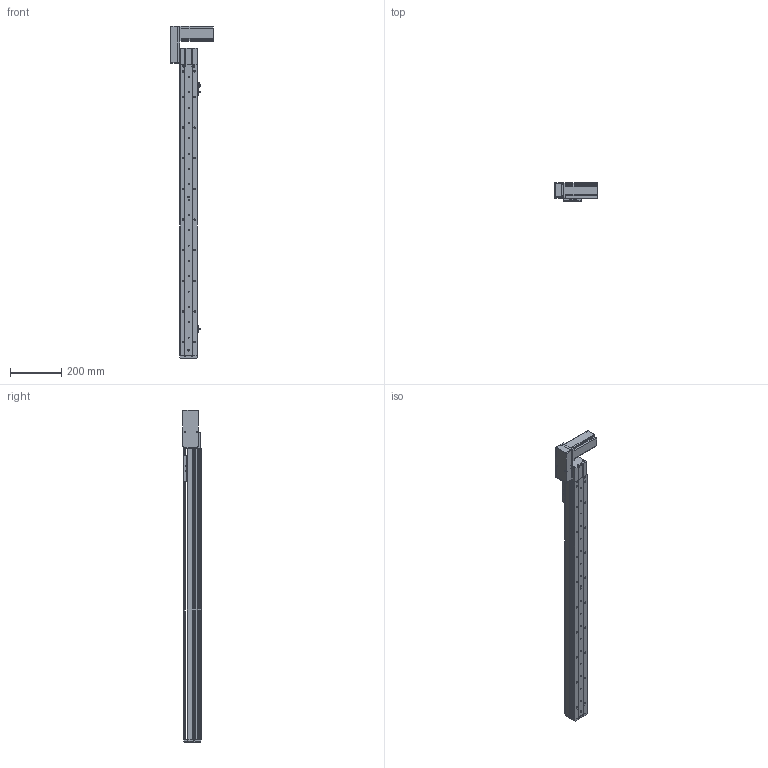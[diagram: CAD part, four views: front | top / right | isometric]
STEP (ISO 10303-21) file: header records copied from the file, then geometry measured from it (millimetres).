
FILE_DESCRIPTION (( 'STEP AP214' ), '1' );
FILE_NAME ('KSD68BS-S950-MRB-CM.STEP', '2019-11-06T07:40:09', ( '微软用户' ), ( '微软中国' ), 'SwSTEP 2.0', 'SolidWorks 2014', '' );
FILE_SCHEMA (( 'AUTOMOTIVE_DESIGN' ));
Length unit declared in the file: millimetre
Products named in the file (11): 68宽马达安装板连板上折同步带; 68宽单导轨半封闭同步带主动轮座右; 68单导轨同步带半封闭端板; KSD68BS 950俴最裔啣圉猾敕; 覜茼え68遵圉猾敕; KSD68BS半封闭同步带传动导轨座; U倰嫖萇EEㄜSX672; 台达ECMA－C20604AS伺服电机（400W); KSD68BS 950俴最菁啣圉猾敕; KSD68BS-S950-MRB-CM; 悵誘欶奻狟殏
Assembly tree (12 placements, depth 2):
  KSD68BS-S950-MRB-CM
    KSD68BS 950俴最菁啣圉猾敕
    台达ECMA－C20604AS伺服电机（400W)
    U倰嫖萇EEㄜSX672  x3
    KSD68BS半封闭同步带传动导轨座
    覜茼え68遵圉猾敕
    KSD68BS 950俴最裔啣圉猾敕
    68单导轨同步带半封闭端板
    68宽单导轨半封闭同步带主动轮座右
    68宽马达安装板连板上折同步带
    悵誘欶奻狟殏
Bounding box: 167.2 x 70.5 x 1299.5 mm (x, y, z)
Volume: 2307578.4 mm3; surface area: 809868.2 mm2
Topology: 13 solids, 13 shells, 1404 faces, 4044 edges, 2630 vertices
Faces by surface type: cylinder 706, plane 615, cone 83
Entity records: 52081 total; most frequent: CARTESIAN_POINT 10014, ORIENTED_EDGE 6840, DIRECTION 6738, EDGE_CURVE 3420, AXIS2_PLACEMENT_3D 2418, VERTEX_POINT 2254, LINE 1902, VECTOR 1902
